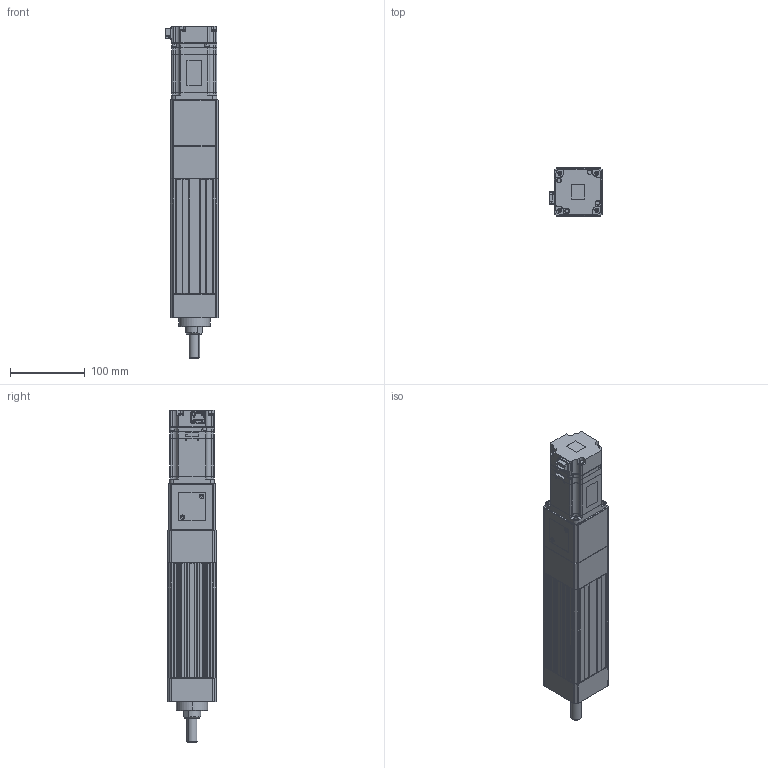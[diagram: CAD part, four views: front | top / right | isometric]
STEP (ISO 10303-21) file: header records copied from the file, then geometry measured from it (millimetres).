
FILE_DESCRIPTION (( 'STEP AP203' ), '1' );
FILE_NAME ('ANS065R-S050-05(10)(20)-W40-M.STEP', '2019-03-02T12:12:46', ( 'user' ), ( '' ), 'SwSTEP 2.0', 'SolidWorks 2013', '' );
FILE_SCHEMA (( 'CONFIG_CONTROL_DESIGN' ));
Length unit declared in the file: millimetre
Products named in the file (4): sgmjv_04a_a21; ANS065 ROD ST050-M; ANS065R-S050-05(10)(20)-W40-M; ANS065R S050 VER2
Assembly tree (3 placements, depth 2):
  ANS065R-S050-05(10)(20)-W40-M
    ANS065R S050 VER2
    sgmjv_04a_a21
    ANS065 ROD ST050-M
Bounding box: 71.3 x 65 x 444.6 mm (x, y, z)
Volume: 1117371.8 mm3; surface area: 209219.3 mm2
Topology: 3 solids, 7 shells, 1080 faces, 2853 edges, 1837 vertices
Faces by surface type: plane 636, cylinder 358, cone 86
Entity records: 33539 total; most frequent: CARTESIAN_POINT 5970, DIRECTION 5703, ORIENTED_EDGE 5658, EDGE_CURVE 2829, VECTOR 1999, LINE 1999, AXIS2_PLACEMENT_3D 1852, VERTEX_POINT 1837
